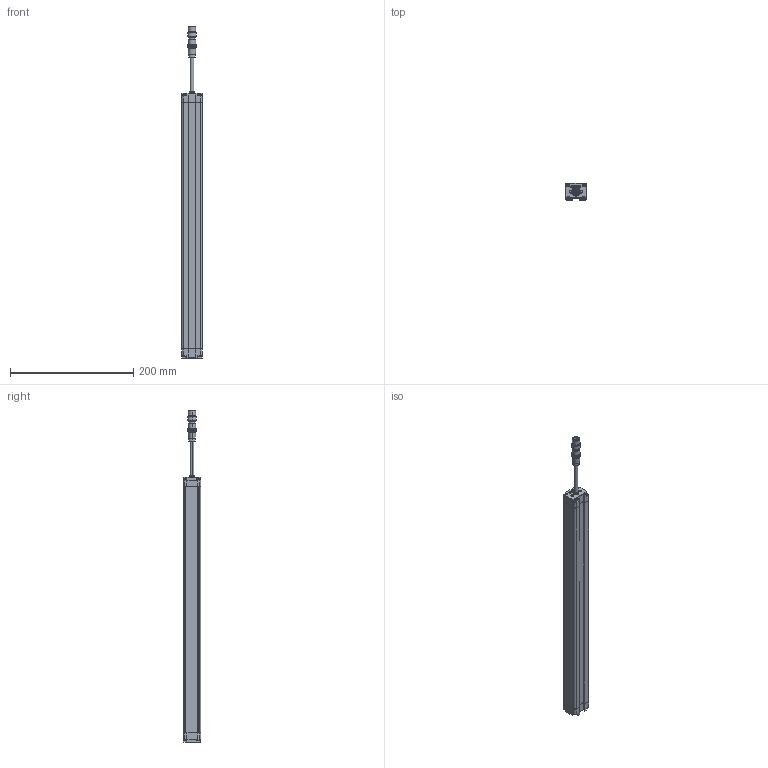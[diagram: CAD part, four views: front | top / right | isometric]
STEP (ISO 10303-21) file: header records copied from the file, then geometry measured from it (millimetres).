
FILE_DESCRIPTION((''),'2;1');
FILE_NAME('SMT1-CGQ_ASM','2025-08-08T08:24:04',('Administrator'),(''),'CREO PARAMETRIC BY PTC INC, 2016510','CREO PARAMETRIC BY PTC INC, 2016510','');
FILE_SCHEMA(('CONFIG_CONTROL_DESIGN'));
Length unit declared in the file: millimetre
Products named in the file (7): SMT1-XINGCAI-V1; SMT1-SDG-V1; SMT1-XDG-V1; M12-CHATOU; ST3X18; CT4-LVGUANGBAN; SMT1-CGQ_ASM
Assembly tree (13 placements, depth 2):
  SMT1-CGQ_ASM
    SMT1-XINGCAI-V1
    SMT1-SDG-V1
    SMT1-XDG-V1
    M12-CHATOU
    ST3X18  x8
    CT4-LVGUANGBAN
Bounding box: 33 x 28.02 x 539.5 mm (x, y, z)
Volume: 338111.1 mm3; surface area: 113045.7 mm2
Topology: 13 solids, 13 shells, 712 faces, 1868 edges, 1200 vertices
Faces by surface type: plane 382, cylinder 184, extrusion 86, sphere 32, cone 20, bspline 8
Entity records: 18128 total; most frequent: CARTESIAN_POINT 4347, ORIENTED_EDGE 2916, DIRECTION 2580, EDGE_CURVE 1458, VECTOR 1036, VERTEX_POINT 955, LINE 950, AXIS2_PLACEMENT_3D 772
